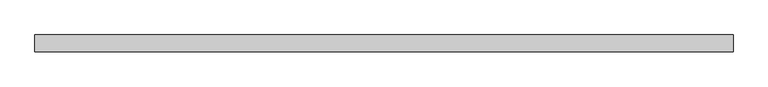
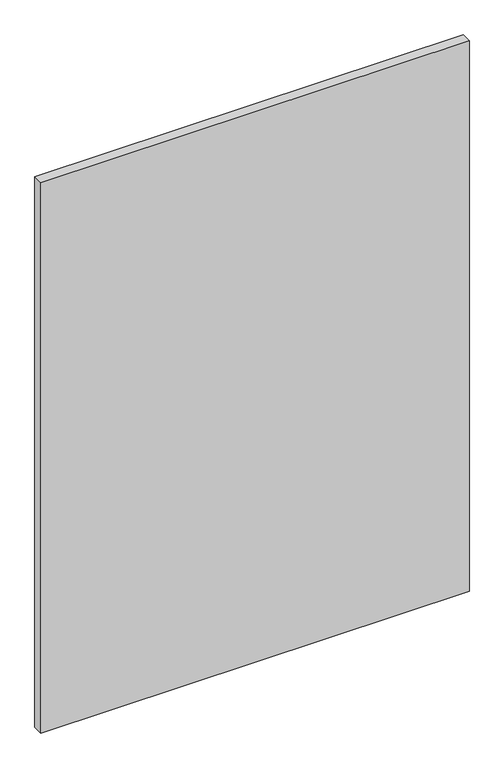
"""IFC4 building model written with IfcOpenShell, lengths in millimetres: plate geometry, 系统嵌板 : 玻璃."""

from ifc_helpers import new_model, si_unit, origin, origin_with_axes, place, context, project, spatial, polyline, outline, extrude, source, transform, mapped, element, save


def plate_f4dba16c(model_context):
    return source(origin(), model_context, "Body", "SweptSolid", [
        extrude(outline(polyline([(525.0, -12.5), (-525.0, -12.5), (-525.0, 12.5), (525.0, 12.5), (525.0, -12.5)])), origin_with_axes(), (0.0, 0.0, 1.0), 1425.0),
    ])


if __name__ == "__main__":
    model = new_model("IFC4")
    model_context = context("Model", 3, world=origin())
    ifc_project = project(units=[si_unit("LENGTHUNIT", "METRE", prefix="MILLI")], contexts=[model_context])
    site = spatial("IfcSite", under=ifc_project)
    building = spatial("IfcBuilding", under=site)
    placement = place(None, origin())
    plate_shape = plate_f4dba16c(model_context)
    element("IfcPlate", 1, ObjectType="系统嵌板 : 玻璃", at=placement, inside=building, context=model_context, shape_type="MappedRepresentation", body=[
        mapped(plate_shape, transform((0.0, 0.0, 0.0), x_axis=(1.0, 0.0, 0.0), y_axis=(0.0, 1.0, 0.0), z_axis=(0.0, 0.0, 1.0))),
    ])
    save(model, "model.ifc")
